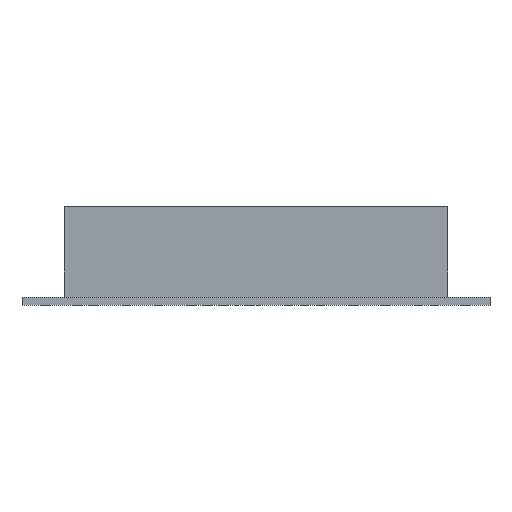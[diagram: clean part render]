
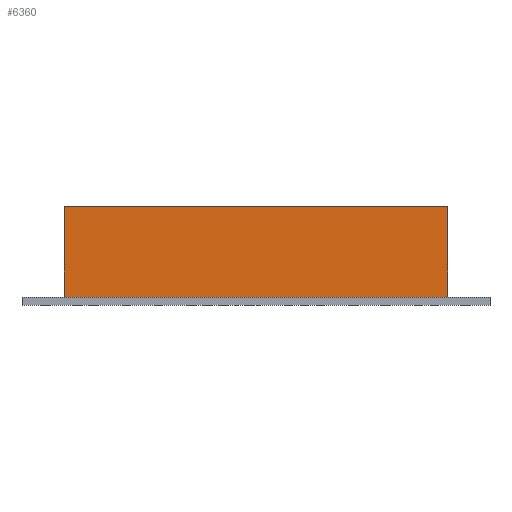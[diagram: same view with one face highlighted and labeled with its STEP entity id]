
A CAD part, left-side view. The second image highlights one B-rep face of the part: STEP entity #6360.
In plain terms, the highlighted planar face has unit normal (-1, 0, 0).
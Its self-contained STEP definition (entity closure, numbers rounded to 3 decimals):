
#126 = PLANE('',#127);
#127 = AXIS2_PLACEMENT_3D('',#128,#129,#130);
#128 = CARTESIAN_POINT('',(0.1,-86.6,-112.));
#129 = DIRECTION('',(0.,0.,1.));
#130 = DIRECTION('',(1.,0.,-0.));
#2266 = EDGE_CURVE('',#2267,#2269,#2271,.T.);
#2267 = VERTEX_POINT('',#2268);
#2268 = CARTESIAN_POINT('',(136.,-71.,-112.));
#2269 = VERTEX_POINT('',#2270);
#2270 = CARTESIAN_POINT('',(136.,71.,-112.));
#2271 = SURFACE_CURVE('',#2272,(#2276,#2283),.PCURVE_S1.);
#2272 = LINE('',#2273,#2274);
#2273 = CARTESIAN_POINT('',(136.,-71.,-112.));
#2274 = VECTOR('',#2275,1.);
#2275 = DIRECTION('',(-0.,1.,0.));
#2276 = PCURVE('',#126,#2277);
#2277 = DEFINITIONAL_REPRESENTATION('',(#2278),#2282);
#2278 = LINE('',#2279,#2280);
#2279 = CARTESIAN_POINT('',(135.9,15.6));
#2280 = VECTOR('',#2281,1.);
#2281 = DIRECTION('',(0.,1.));
#2282 = ( GEOMETRIC_REPRESENTATION_CONTEXT(2) 
PARAMETRIC_REPRESENTATION_CONTEXT() REPRESENTATION_CONTEXT('2D SPACE',''
  ) );
#2283 = PCURVE('',#2284,#2289);
#2284 = PLANE('',#2285);
#2285 = AXIS2_PLACEMENT_3D('',#2286,#2287,#2288);
#2286 = CARTESIAN_POINT('',(136.,-71.,-112.));
#2287 = DIRECTION('',(1.,0.,-0.));
#2288 = DIRECTION('',(0.,0.,1.));
#2289 = DEFINITIONAL_REPRESENTATION('',(#2290),#2294);
#2290 = LINE('',#2291,#2292);
#2291 = CARTESIAN_POINT('',(0.,0.));
#2292 = VECTOR('',#2293,1.);
#2293 = DIRECTION('',(0.,-1.));
#2294 = ( GEOMETRIC_REPRESENTATION_CONTEXT(2) 
PARAMETRIC_REPRESENTATION_CONTEXT() REPRESENTATION_CONTEXT('2D SPACE',''
  ) );
#2312 = PLANE('',#2313);
#2313 = AXIS2_PLACEMENT_3D('',#2314,#2315,#2316);
#2314 = CARTESIAN_POINT('',(136.,71.,-112.));
#2315 = DIRECTION('',(-0.,1.,0.));
#2316 = DIRECTION('',(0.,0.,1.));
#2366 = PLANE('',#2367);
#2367 = AXIS2_PLACEMENT_3D('',#2368,#2369,#2370);
#2368 = CARTESIAN_POINT('',(136.,-71.,-112.));
#2369 = DIRECTION('',(-0.,1.,0.));
#2370 = DIRECTION('',(0.,0.,1.));
#6360 = ADVANCED_FACE('',(#6361),#2284,.F.);
#6361 = FACE_BOUND('',#6362,.F.);
#6362 = EDGE_LOOP('',(#6363,#6386,#6387,#6410));
#6363 = ORIENTED_EDGE('',*,*,#6364,.F.);
#6364 = EDGE_CURVE('',#2267,#6365,#6367,.T.);
#6365 = VERTEX_POINT('',#6366);
#6366 = CARTESIAN_POINT('',(136.,-71.,-78.6));
#6367 = SURFACE_CURVE('',#6368,(#6372,#6379),.PCURVE_S1.);
#6368 = LINE('',#6369,#6370);
#6369 = CARTESIAN_POINT('',(136.,-71.,-112.));
#6370 = VECTOR('',#6371,1.);
#6371 = DIRECTION('',(0.,0.,1.));
#6372 = PCURVE('',#2284,#6373);
#6373 = DEFINITIONAL_REPRESENTATION('',(#6374),#6378);
#6374 = LINE('',#6375,#6376);
#6375 = CARTESIAN_POINT('',(0.,0.));
#6376 = VECTOR('',#6377,1.);
#6377 = DIRECTION('',(1.,0.));
#6378 = ( GEOMETRIC_REPRESENTATION_CONTEXT(2) 
PARAMETRIC_REPRESENTATION_CONTEXT() REPRESENTATION_CONTEXT('2D SPACE',''
  ) );
#6379 = PCURVE('',#2366,#6380);
#6380 = DEFINITIONAL_REPRESENTATION('',(#6381),#6385);
#6381 = LINE('',#6382,#6383);
#6382 = CARTESIAN_POINT('',(0.,0.));
#6383 = VECTOR('',#6384,1.);
#6384 = DIRECTION('',(1.,0.));
#6385 = ( GEOMETRIC_REPRESENTATION_CONTEXT(2) 
PARAMETRIC_REPRESENTATION_CONTEXT() REPRESENTATION_CONTEXT('2D SPACE',''
  ) );
#6386 = ORIENTED_EDGE('',*,*,#2266,.T.);
#6387 = ORIENTED_EDGE('',*,*,#6388,.T.);
#6388 = EDGE_CURVE('',#2269,#6389,#6391,.T.);
#6389 = VERTEX_POINT('',#6390);
#6390 = CARTESIAN_POINT('',(136.,71.,-78.6));
#6391 = SURFACE_CURVE('',#6392,(#6396,#6403),.PCURVE_S1.);
#6392 = LINE('',#6393,#6394);
#6393 = CARTESIAN_POINT('',(136.,71.,-112.));
#6394 = VECTOR('',#6395,1.);
#6395 = DIRECTION('',(0.,0.,1.));
#6396 = PCURVE('',#2284,#6397);
#6397 = DEFINITIONAL_REPRESENTATION('',(#6398),#6402);
#6398 = LINE('',#6399,#6400);
#6399 = CARTESIAN_POINT('',(0.,-142.));
#6400 = VECTOR('',#6401,1.);
#6401 = DIRECTION('',(1.,0.));
#6402 = ( GEOMETRIC_REPRESENTATION_CONTEXT(2) 
PARAMETRIC_REPRESENTATION_CONTEXT() REPRESENTATION_CONTEXT('2D SPACE',''
  ) );
#6403 = PCURVE('',#2312,#6404);
#6404 = DEFINITIONAL_REPRESENTATION('',(#6405),#6409);
#6405 = LINE('',#6406,#6407);
#6406 = CARTESIAN_POINT('',(0.,0.));
#6407 = VECTOR('',#6408,1.);
#6408 = DIRECTION('',(1.,0.));
#6409 = ( GEOMETRIC_REPRESENTATION_CONTEXT(2) 
PARAMETRIC_REPRESENTATION_CONTEXT() REPRESENTATION_CONTEXT('2D SPACE',''
  ) );
#6410 = ORIENTED_EDGE('',*,*,#6411,.F.);
#6411 = EDGE_CURVE('',#6365,#6389,#6412,.T.);
#6412 = SURFACE_CURVE('',#6413,(#6417,#6424),.PCURVE_S1.);
#6413 = LINE('',#6414,#6415);
#6414 = CARTESIAN_POINT('',(136.,-71.,-78.6));
#6415 = VECTOR('',#6416,1.);
#6416 = DIRECTION('',(-0.,1.,0.));
#6417 = PCURVE('',#2284,#6418);
#6418 = DEFINITIONAL_REPRESENTATION('',(#6419),#6423);
#6419 = LINE('',#6420,#6421);
#6420 = CARTESIAN_POINT('',(33.4,0.));
#6421 = VECTOR('',#6422,1.);
#6422 = DIRECTION('',(0.,-1.));
#6423 = ( GEOMETRIC_REPRESENTATION_CONTEXT(2) 
PARAMETRIC_REPRESENTATION_CONTEXT() REPRESENTATION_CONTEXT('2D SPACE',''
  ) );
#6424 = PCURVE('',#6425,#6430);
#6425 = PLANE('',#6426);
#6426 = AXIS2_PLACEMENT_3D('',#6427,#6428,#6429);
#6427 = CARTESIAN_POINT('',(136.,-71.,-78.6));
#6428 = DIRECTION('',(0.,0.,1.));
#6429 = DIRECTION('',(1.,0.,-0.));
#6430 = DEFINITIONAL_REPRESENTATION('',(#6431),#6435);
#6431 = LINE('',#6432,#6433);
#6432 = CARTESIAN_POINT('',(0.,0.));
#6433 = VECTOR('',#6434,1.);
#6434 = DIRECTION('',(0.,1.));
#6435 = ( GEOMETRIC_REPRESENTATION_CONTEXT(2) 
PARAMETRIC_REPRESENTATION_CONTEXT() REPRESENTATION_CONTEXT('2D SPACE',''
  ) );
